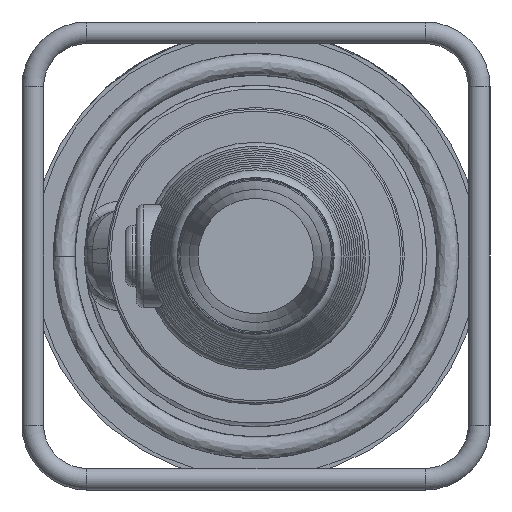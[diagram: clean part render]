
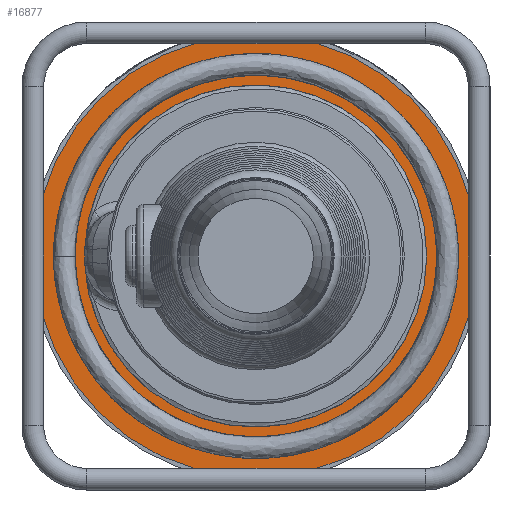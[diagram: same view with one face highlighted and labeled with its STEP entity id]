
A CAD part, left-side view. The second image highlights one B-rep face of the part: STEP entity #16877.
In plain terms, the highlighted planar face has unit normal (-1, 0, 0).
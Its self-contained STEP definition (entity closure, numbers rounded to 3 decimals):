
#141=FACE_BOUND('',#5394,.T.);
#809=PLANE('',#17681);
#4353=FACE_OUTER_BOUND('',#5393,.T.);
#5393=EDGE_LOOP('',(#14398));
#5394=EDGE_LOOP('',(#14399));
#5859=CIRCLE('',#17682,123.);
#5860=CIRCLE('',#17683,95.);
#7625=VERTEX_POINT('',#38491);
#7626=VERTEX_POINT('',#38493);
#9926=EDGE_CURVE('',#7625,#7625,#5859,.T.);
#9927=EDGE_CURVE('',#7626,#7626,#5860,.T.);
#14398=ORIENTED_EDGE('',*,*,#9926,.F.);
#14399=ORIENTED_EDGE('',*,*,#9927,.T.);
#16877=ADVANCED_FACE('',(#4353,#141),#809,.F.);
#17681=AXIS2_PLACEMENT_3D('',#38490,#20171,#20172);
#17682=AXIS2_PLACEMENT_3D('',#38492,#20173,#20174);
#17683=AXIS2_PLACEMENT_3D('',#38494,#20175,#20176);
#20171=DIRECTION('center_axis',(1.,0.,0.));
#20172=DIRECTION('ref_axis',(0.,0.093,-0.996));
#20173=DIRECTION('center_axis',(1.,0.,0.));
#20174=DIRECTION('ref_axis',(0.,0.093,-0.996));
#20175=DIRECTION('center_axis',(1.,0.,0.));
#20176=DIRECTION('ref_axis',(0.,-1.,0.));
#38490=CARTESIAN_POINT('Origin',(-5.,0.161,0.));
#38491=CARTESIAN_POINT('',(-5.,-11.228,122.472));
#38492=CARTESIAN_POINT('Origin',(-5.,0.161,0.));
#38493=CARTESIAN_POINT('',(-5.004,95.161,0.));
#38494=CARTESIAN_POINT('Origin',(-5.,0.161,0.));
